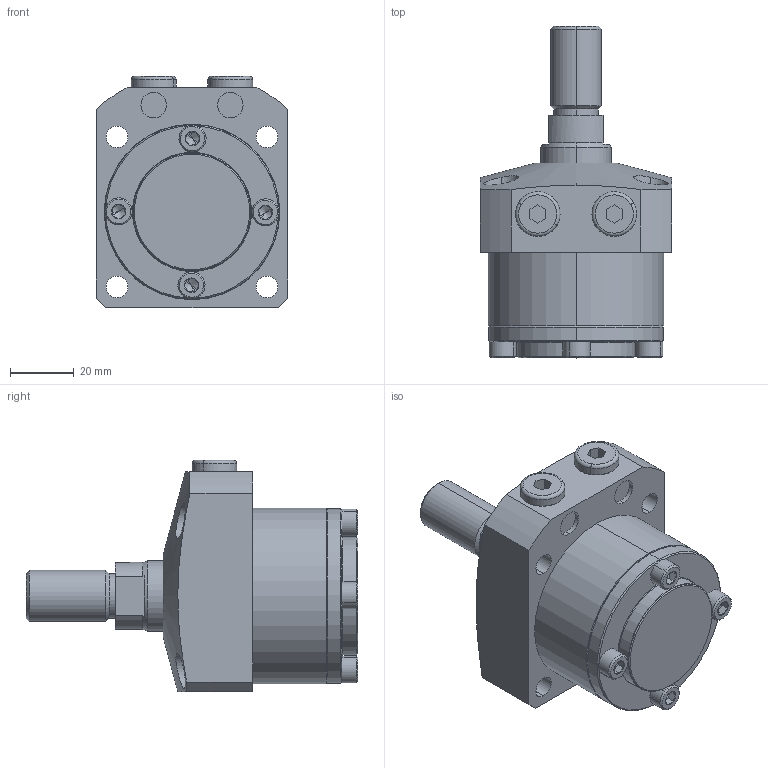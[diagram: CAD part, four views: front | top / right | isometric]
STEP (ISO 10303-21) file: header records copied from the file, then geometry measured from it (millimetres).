
FILE_DESCRIPTION (( 'STEP AP203' ), '1' );
FILE_NAME ('680550-CT-020.step', '2016-11-02T03:23:40', ( 'wxp' ), ( '' ), 'SwSTEP 2.0', 'SolidWorks 2011', '' );
FILE_SCHEMA (( 'CONFIG_CONTROL_DESIGN' ));
Length unit declared in the file: millimetre
Products named in the file (6): 680550-CT-020; 葩璃 680550-20-12^680550-CT-020; 葩璃 68055-CA-15-5^680550-CT-020; 葩璃 68055-CA-15-4^680550-CT-020; 葩璃 68055-CA-15-3^680550-CT-020; 葩璃 68055-CA-20-1^680550-CT-020
Assembly tree (9 placements, depth 2):
  680550-CT-020
    葩璃 68055-CA-15-3^680550-CT-020
    葩璃 680550-20-12^680550-CT-020
    葩璃 68055-CA-15-4^680550-CT-020  x4
    葩璃 68055-CA-20-1^680550-CT-020
    葩璃 68055-CA-15-5^680550-CT-020  x2
Bounding box: 60 x 104 x 72.5 mm (x, y, z)
Volume: 180047.5 mm3; surface area: 35385.7 mm2
Topology: 9 solids, 9 shells, 278 faces, 552 edges, 309 vertices
Faces by surface type: plane 109, cylinder 81, cone 72, torus 16
Entity records: 5442 total; most frequent: CARTESIAN_POINT 1166, DIRECTION 821, ORIENTED_EDGE 668, AXIS2_PLACEMENT_3D 342, EDGE_CURVE 334, VERTEX_POINT 202, EDGE_LOOP 192, CIRCLE 171
